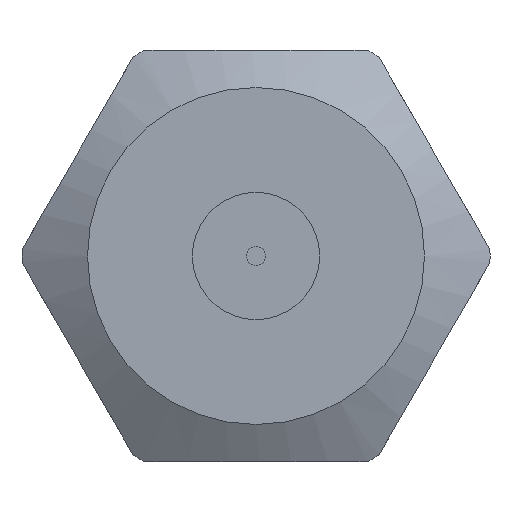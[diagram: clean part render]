
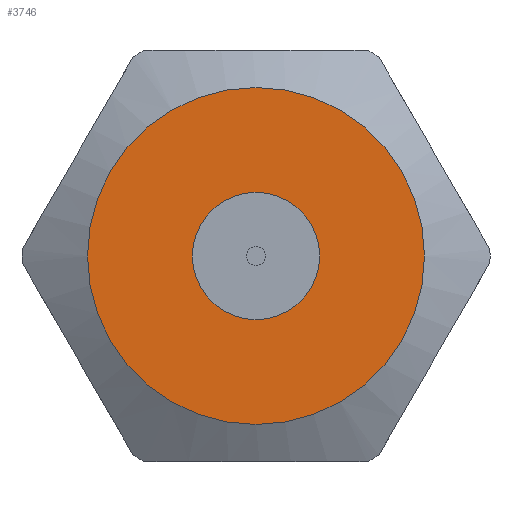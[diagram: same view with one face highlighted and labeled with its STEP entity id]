
A CAD part, front view. The second image highlights one B-rep face of the part: STEP entity #3746.
In plain terms, the highlighted planar face has unit normal (0, -1, 0).
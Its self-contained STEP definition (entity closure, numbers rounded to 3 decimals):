
#1031=PLANE('',#3997);
#1370=VERTEX_POINT('',#5799);
#1371=VERTEX_POINT('',#5801);
#1477=CIRCLE('',#3998,9.);
#1478=CIRCLE('',#3999,3.4);
#1947=EDGE_CURVE('',#1370,#1370,#1477,.T.);
#1948=EDGE_CURVE('',#1371,#1371,#1478,.T.);
#2855=ORIENTED_EDGE('',*,*,#1947,.T.);
#2856=ORIENTED_EDGE('',*,*,#1948,.T.);
#3242=EDGE_LOOP('',(#2855));
#3243=EDGE_LOOP('',(#2856));
#3509=FACE_BOUND('',#3242,.T.);
#3510=FACE_BOUND('',#3243,.T.);
#3746=ADVANCED_FACE('',(#3509,#3510),#1031,.F.);
#3997=AXIS2_PLACEMENT_3D('',#5797,#4733,$);
#3998=AXIS2_PLACEMENT_3D('',#5798,#4734,#4735);
#3999=AXIS2_PLACEMENT_3D('',#5800,#4736,#4737);
#4733=DIRECTION('',(0.,1.,0.));
#4734=DIRECTION('',(0.,-1.,0.));
#4735=DIRECTION('',(-9.,0.,0.));
#4736=DIRECTION('',(0.,1.,0.));
#4737=DIRECTION('',(3.4,0.,0.));
#5797=CARTESIAN_POINT('',(0.,0.,0.));
#5798=CARTESIAN_POINT('',(0.,0.,0.));
#5799=CARTESIAN_POINT('',(-9.,0.,0.));
#5800=CARTESIAN_POINT('',(0.,0.,0.));
#5801=CARTESIAN_POINT('',(3.4,0.,0.));
